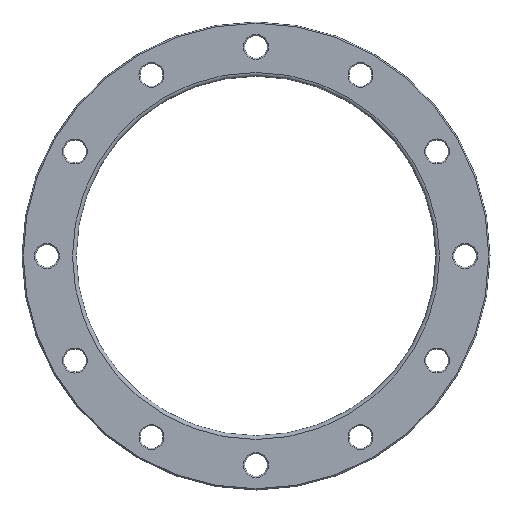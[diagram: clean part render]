
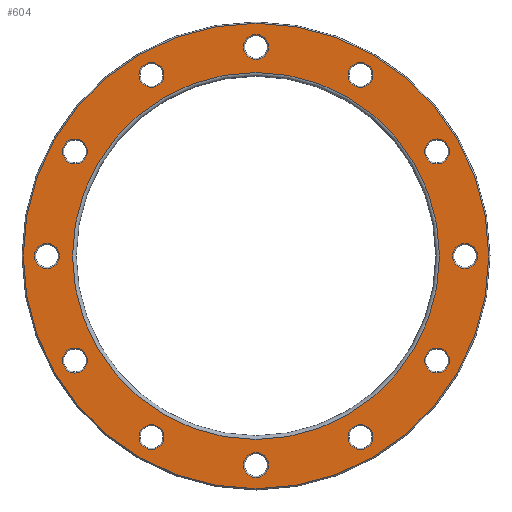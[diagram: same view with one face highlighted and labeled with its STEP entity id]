
A CAD part, front view. The second image highlights one B-rep face of the part: STEP entity #604.
In plain terms, the highlighted planar face has unit normal (0, -1, 0).
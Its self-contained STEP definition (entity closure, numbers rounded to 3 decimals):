
#23=PLANE('',#712);
#134=ORIENTED_EDGE('',*,*,#213,.T.);
#135=ORIENTED_EDGE('',*,*,#214,.T.);
#136=ORIENTED_EDGE('',*,*,#164,.T.);
#137=ORIENTED_EDGE('',*,*,#168,.T.);
#138=ORIENTED_EDGE('',*,*,#172,.T.);
#139=ORIENTED_EDGE('',*,*,#176,.T.);
#140=ORIENTED_EDGE('',*,*,#180,.T.);
#141=ORIENTED_EDGE('',*,*,#184,.T.);
#142=ORIENTED_EDGE('',*,*,#188,.T.);
#143=ORIENTED_EDGE('',*,*,#192,.T.);
#144=ORIENTED_EDGE('',*,*,#196,.T.);
#145=ORIENTED_EDGE('',*,*,#200,.T.);
#146=ORIENTED_EDGE('',*,*,#204,.T.);
#147=ORIENTED_EDGE('',*,*,#215,.T.);
#164=EDGE_CURVE('',#220,#220,#276,.T.);
#168=EDGE_CURVE('',#224,#224,#280,.T.);
#172=EDGE_CURVE('',#228,#228,#284,.T.);
#176=EDGE_CURVE('',#232,#232,#288,.T.);
#180=EDGE_CURVE('',#236,#236,#292,.T.);
#184=EDGE_CURVE('',#240,#240,#296,.T.);
#188=EDGE_CURVE('',#244,#244,#300,.T.);
#192=EDGE_CURVE('',#248,#248,#304,.T.);
#196=EDGE_CURVE('',#252,#252,#308,.T.);
#200=EDGE_CURVE('',#256,#256,#312,.T.);
#204=EDGE_CURVE('',#260,#260,#316,.T.);
#213=EDGE_CURVE('',#269,#269,#325,.F.);
#214=EDGE_CURVE('',#270,#270,#326,.T.);
#215=EDGE_CURVE('',#271,#271,#327,.T.);
#220=VERTEX_POINT('',#935);
#224=VERTEX_POINT('',#946);
#228=VERTEX_POINT('',#957);
#232=VERTEX_POINT('',#968);
#236=VERTEX_POINT('',#979);
#240=VERTEX_POINT('',#990);
#244=VERTEX_POINT('',#1001);
#248=VERTEX_POINT('',#1012);
#252=VERTEX_POINT('',#1023);
#256=VERTEX_POINT('',#1034);
#260=VERTEX_POINT('',#1045);
#269=VERTEX_POINT('',#1068);
#270=VERTEX_POINT('',#1070);
#271=VERTEX_POINT('',#1072);
#276=CIRCLE('',#629,10.);
#280=CIRCLE('',#636,10.);
#284=CIRCLE('',#643,10.);
#288=CIRCLE('',#650,10.);
#292=CIRCLE('',#657,10.);
#296=CIRCLE('',#664,10.);
#300=CIRCLE('',#671,10.);
#304=CIRCLE('',#678,10.);
#308=CIRCLE('',#685,10.);
#312=CIRCLE('',#692,10.);
#316=CIRCLE('',#699,10.);
#325=CIRCLE('',#713,186.5);
#326=CIRCLE('',#714,147.);
#327=CIRCLE('',#715,10.);
#414=EDGE_LOOP('',(#134));
#415=EDGE_LOOP('',(#135));
#416=EDGE_LOOP('',(#136));
#417=EDGE_LOOP('',(#137));
#418=EDGE_LOOP('',(#138));
#419=EDGE_LOOP('',(#139));
#420=EDGE_LOOP('',(#140));
#421=EDGE_LOOP('',(#141));
#422=EDGE_LOOP('',(#142));
#423=EDGE_LOOP('',(#143));
#424=EDGE_LOOP('',(#144));
#425=EDGE_LOOP('',(#145));
#426=EDGE_LOOP('',(#146));
#427=EDGE_LOOP('',(#147));
#526=FACE_BOUND('',#414,.T.);
#527=FACE_BOUND('',#415,.T.);
#528=FACE_BOUND('',#416,.T.);
#529=FACE_BOUND('',#417,.T.);
#530=FACE_BOUND('',#418,.T.);
#531=FACE_BOUND('',#419,.T.);
#532=FACE_BOUND('',#420,.T.);
#533=FACE_BOUND('',#421,.T.);
#534=FACE_BOUND('',#422,.T.);
#535=FACE_BOUND('',#423,.T.);
#536=FACE_BOUND('',#424,.T.);
#537=FACE_BOUND('',#425,.T.);
#538=FACE_BOUND('',#426,.T.);
#539=FACE_BOUND('',#427,.T.);
#604=ADVANCED_FACE('',(#526,#527,#528,#529,#530,#531,#532,#533,#534,#535,
#536,#537,#538,#539),#23,.F.);
#629=AXIS2_PLACEMENT_3D('',#934,#735,#736);
#636=AXIS2_PLACEMENT_3D('',#945,#749,#750);
#643=AXIS2_PLACEMENT_3D('',#956,#763,#764);
#650=AXIS2_PLACEMENT_3D('',#967,#777,#778);
#657=AXIS2_PLACEMENT_3D('',#978,#791,#792);
#664=AXIS2_PLACEMENT_3D('',#989,#805,#806);
#671=AXIS2_PLACEMENT_3D('',#1000,#819,#820);
#678=AXIS2_PLACEMENT_3D('',#1011,#833,#834);
#685=AXIS2_PLACEMENT_3D('',#1022,#847,#848);
#692=AXIS2_PLACEMENT_3D('',#1033,#861,#862);
#699=AXIS2_PLACEMENT_3D('',#1044,#875,#876);
#712=AXIS2_PLACEMENT_3D('',#1066,#901,#902);
#713=AXIS2_PLACEMENT_3D('',#1067,#903,#904);
#714=AXIS2_PLACEMENT_3D('',#1069,#905,#906);
#715=AXIS2_PLACEMENT_3D('',#1071,#907,#908);
#735=DIRECTION('',(0.,1.,0.));
#736=DIRECTION('',(0.866,0.,0.5));
#749=DIRECTION('',(0.,1.,0.));
#750=DIRECTION('',(0.5,0.,0.866));
#763=DIRECTION('',(0.,1.,0.));
#764=DIRECTION('',(0.,0.,1.));
#777=DIRECTION('',(0.,1.,0.));
#778=DIRECTION('',(-0.5,0.,0.866));
#791=DIRECTION('',(0.,1.,0.));
#792=DIRECTION('',(-0.866,0.,0.5));
#805=DIRECTION('',(0.,1.,0.));
#806=DIRECTION('',(-1.,0.,0.));
#819=DIRECTION('',(0.,1.,0.));
#820=DIRECTION('',(-0.866,0.,-0.5));
#833=DIRECTION('',(0.,1.,0.));
#834=DIRECTION('',(-0.5,0.,-0.866));
#847=DIRECTION('',(0.,1.,0.));
#848=DIRECTION('',(0.,0.,-1.));
#861=DIRECTION('',(0.,1.,0.));
#862=DIRECTION('',(0.5,0.,-0.866));
#875=DIRECTION('',(0.,1.,0.));
#876=DIRECTION('',(0.866,0.,-0.5));
#901=DIRECTION('',(0.,1.,0.));
#902=DIRECTION('',(0.,0.,1.));
#903=DIRECTION('',(0.,1.,0.));
#904=DIRECTION('',(0.,0.,1.));
#905=DIRECTION('',(0.,1.,0.));
#906=DIRECTION('',(0.,0.,1.));
#907=DIRECTION('',(0.,1.,0.));
#908=DIRECTION('',(1.,0.,0.));
#934=CARTESIAN_POINT('',(-83.75,0.,145.059));
#935=CARTESIAN_POINT('',(-75.09,0.,150.059));
#945=CARTESIAN_POINT('',(-145.059,0.,83.75));
#946=CARTESIAN_POINT('',(-140.059,0.,92.41));
#956=CARTESIAN_POINT('',(-167.5,0.,0.));
#957=CARTESIAN_POINT('',(-167.5,0.,10.));
#967=CARTESIAN_POINT('',(-145.059,0.,-83.75));
#968=CARTESIAN_POINT('',(-150.059,0.,-75.09));
#978=CARTESIAN_POINT('',(-83.75,0.,-145.059));
#979=CARTESIAN_POINT('',(-92.41,0.,-140.059));
#989=CARTESIAN_POINT('',(0.,0.,-167.5));
#990=CARTESIAN_POINT('',(-10.,0.,-167.5));
#1000=CARTESIAN_POINT('',(83.75,0.,-145.059));
#1001=CARTESIAN_POINT('',(75.09,0.,-150.059));
#1011=CARTESIAN_POINT('',(145.059,0.,-83.75));
#1012=CARTESIAN_POINT('',(140.059,0.,-92.41));
#1022=CARTESIAN_POINT('',(167.5,0.,0.));
#1023=CARTESIAN_POINT('',(167.5,0.,-10.));
#1033=CARTESIAN_POINT('',(145.059,0.,83.75));
#1034=CARTESIAN_POINT('',(150.059,0.,75.09));
#1044=CARTESIAN_POINT('',(83.75,0.,145.059));
#1045=CARTESIAN_POINT('',(92.41,0.,140.059));
#1066=CARTESIAN_POINT('',(0.,0.,0.));
#1067=CARTESIAN_POINT('',(0.,0.,0.));
#1068=CARTESIAN_POINT('',(0.,0.,186.5));
#1069=CARTESIAN_POINT('',(0.,0.,0.));
#1070=CARTESIAN_POINT('',(0.,0.,147.));
#1071=CARTESIAN_POINT('',(0.,0.,167.5));
#1072=CARTESIAN_POINT('',(10.,0.,167.5));
